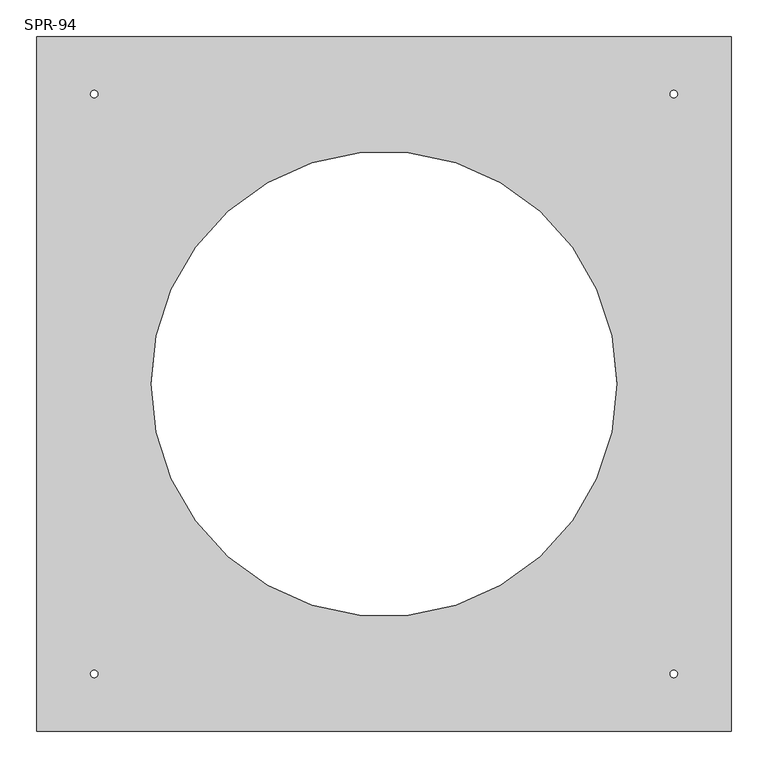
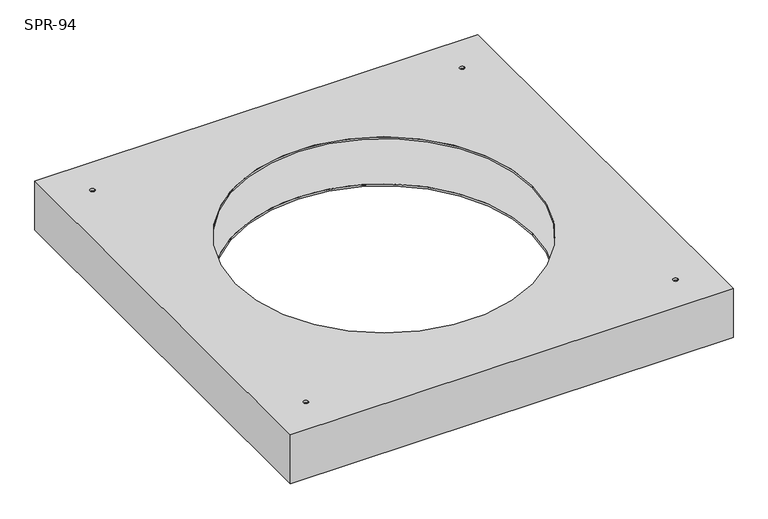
"""IFC4 building model written with IfcOpenShell, lengths in millimetres: damper geometry, СВ_КлапанИнерционный_КрышныйПрямоугольный_30-100_SPR : SPR-94."""

from ifc_helpers import new_model, si_unit, frame, origin, place, context, project, spatial, polyline, circle_curve, source, transform, mapped, element, save
from ifc_brep_helpers import plane_surface, revolved_surface, advanced_brep


def spr_94_8e47aa8c(model_context):
    return source(origin(), model_context, "Body", "AdvancedBrep", [
        advanced_brep(
        [(470.0, 470.0, 0.0), (-470.0, 470.0, 0.0), (-470.0, -470.0, 0.0), (470.0, -470.0, 0.0), (-315.0, 0.0, 0.0), (315.0, 0.0, 0.0), (-387.5, -392.5, 0.0), (-397.5, -392.5, 0.0), (397.5, -392.5, 0.0), (387.5, -392.5, 0.0), (397.5, 392.5, 0.0), (387.5, 392.5, 0.0), (-387.5, 392.5, 0.0), (-397.5, 392.5, 0.0), (470.0, 470.0, -110.0), (470.0, -470.0, -110.0), (-470.0, -470.0, -110.0), (-470.0, 470.0, -110.0), (-315.0, 0.0, -110.0), (315.0, 0.0, -110.0), (-397.5, -392.5, -110.0), (-387.5, -392.5, -110.0), (387.5, -392.5, -110.0), (397.5, -392.5, -110.0), (387.5, 392.5, -110.0), (397.5, 392.5, -110.0), (-397.5, 392.5, -110.0), (-387.5, 392.5, -110.0), (-315.0, 0.0, -4.0), (315.0, 0.0, -4.0), (315.0, 0.0, -106.0), (-315.0, 0.0, -106.0), (465.0, 465.0, -4.0), (465.0, -465.0, -4.0), (-465.0, -465.0, -4.0), (-465.0, 465.0, -4.0), (-397.5, -392.5, -4.0), (-387.5, -392.5, -4.0), (387.5, -392.5, -4.0), (397.5, -392.5, -4.0), (387.5, 392.5, -4.0), (397.5, 392.5, -4.0), (-397.5, 392.5, -4.0), (-387.5, 392.5, -4.0), (465.0, 465.0, -106.0), (-465.0, 465.0, -106.0), (-465.0, -465.0, -106.0), (465.0, -465.0, -106.0), (-387.5, -392.5, -106.0), (-397.5, -392.5, -106.0), (397.5, -392.5, -106.0), (387.5, -392.5, -106.0), (397.5, 392.5, -106.0), (387.5, 392.5, -106.0), (-387.5, 392.5, -106.0), (-397.5, 392.5, -106.0)],
        [
            (0, 1),
            (1, 2),
            (2, 3),
            (3, 0),
            (4, 5, circle_curve(frame((0.0, 0.0, 0.0), z_axis=(0.0, 0.0, -1.0), x_axis=(1.0, 0.0, 0.0)), 315.0)),
            (5, 4, circle_curve(frame((0.0, 0.0, 0.0), z_axis=(0.0, 0.0, -1.0), x_axis=(1.0, 0.0, 0.0)), 315.0)),
            (6, 7, circle_curve(frame((-392.5, -392.5, 0.0), z_axis=(0.0, 0.0, -1.0), x_axis=(1.0, 0.0, 0.0)), 5.0)),
            (7, 6, circle_curve(frame((-392.5, -392.5, 0.0), z_axis=(0.0, 0.0, -1.0), x_axis=(1.0, 0.0, 0.0)), 5.0)),
            (8, 9, circle_curve(frame((392.5, -392.5, 0.0), z_axis=(0.0, 0.0, -1.0), x_axis=(1.0, 0.0, 0.0)), 5.0)),
            (9, 8, circle_curve(frame((392.5, -392.5, 0.0), z_axis=(0.0, 0.0, -1.0), x_axis=(1.0, 0.0, 0.0)), 5.0)),
            (10, 11, circle_curve(frame((392.5, 392.5, 0.0), z_axis=(0.0, 0.0, -1.0), x_axis=(1.0, 0.0, 0.0)), 5.0)),
            (11, 10, circle_curve(frame((392.5, 392.5, 0.0), z_axis=(0.0, 0.0, -1.0), x_axis=(1.0, 0.0, 0.0)), 5.0)),
            (12, 13, circle_curve(frame((-392.5, 392.5, 0.0), z_axis=(0.0, 0.0, -1.0), x_axis=(1.0, 0.0, 0.0)), 5.0)),
            (13, 12, circle_curve(frame((-392.5, 392.5, 0.0), z_axis=(0.0, 0.0, -1.0), x_axis=(1.0, 0.0, 0.0)), 5.0)),
            (14, 15),
            (15, 16),
            (16, 17),
            (17, 14),
            (18, 19, circle_curve(frame((0.0, 0.0, -110.0), z_axis=(0.0, 0.0, 1.0), x_axis=(1.0, 0.0, 0.0)), 315.0)),
            (19, 18, circle_curve(frame((0.0, 0.0, -110.0), z_axis=(0.0, 0.0, 1.0), x_axis=(1.0, 0.0, 0.0)), 315.0)),
            (20, 21, circle_curve(frame((-392.5, -392.5, -110.0), z_axis=(0.0, 0.0, 1.0), x_axis=(1.0, 0.0, 0.0)), 5.0)),
            (21, 20, circle_curve(frame((-392.5, -392.5, -110.0), z_axis=(0.0, 0.0, 1.0), x_axis=(1.0, 0.0, 0.0)), 5.0)),
            (22, 23, circle_curve(frame((392.5, -392.5, -110.0), z_axis=(0.0, 0.0, 1.0), x_axis=(1.0, 0.0, 0.0)), 5.0)),
            (23, 22, circle_curve(frame((392.5, -392.5, -110.0), z_axis=(0.0, 0.0, 1.0), x_axis=(1.0, 0.0, 0.0)), 5.0)),
            (24, 25, circle_curve(frame((392.5, 392.5, -110.0), z_axis=(0.0, 0.0, 1.0), x_axis=(1.0, 0.0, 0.0)), 5.0)),
            (25, 24, circle_curve(frame((392.5, 392.5, -110.0), z_axis=(0.0, 0.0, 1.0), x_axis=(1.0, 0.0, 0.0)), 5.0)),
            (26, 27, circle_curve(frame((-392.5, 392.5, -110.0), z_axis=(0.0, 0.0, 1.0), x_axis=(1.0, 0.0, 0.0)), 5.0)),
            (27, 26, circle_curve(frame((-392.5, 392.5, -110.0), z_axis=(0.0, 0.0, 1.0), x_axis=(1.0, 0.0, 0.0)), 5.0)),
            (0, 14),
            (17, 1),
            (16, 2),
            (15, 3),
            (4, 28),
            (28, 29, circle_curve(frame((0.0, 0.0, -4.0), z_axis=(0.0, 0.0, -1.0), x_axis=(1.0, 0.0, 0.0)), 315.0)),
            (29, 5),
            (19, 30),
            (30, 31, circle_curve(frame((0.0, 0.0, -106.0), z_axis=(0.0, 0.0, 1.0), x_axis=(1.0, 0.0, 0.0)), 315.0)),
            (31, 18),
            (29, 28, circle_curve(frame((0.0, 0.0, -4.0), z_axis=(0.0, 0.0, -1.0), x_axis=(1.0, 0.0, 0.0)), 315.0)),
            (31, 30, circle_curve(frame((0.0, 0.0, -106.0), z_axis=(0.0, 0.0, 1.0), x_axis=(1.0, 0.0, 0.0)), 315.0)),
            (32, 33),
            (33, 34),
            (34, 35),
            (35, 32),
            (36, 37, circle_curve(frame((-392.5, -392.5, -4.0), z_axis=(0.0, 0.0, 1.0), x_axis=(1.0, 0.0, 0.0)), 5.0)),
            (37, 36, circle_curve(frame((-392.5, -392.5, -4.0), z_axis=(0.0, 0.0, 1.0), x_axis=(1.0, 0.0, 0.0)), 5.0)),
            (38, 39, circle_curve(frame((392.5, -392.5, -4.0), z_axis=(0.0, 0.0, 1.0), x_axis=(1.0, 0.0, 0.0)), 5.0)),
            (39, 38, circle_curve(frame((392.5, -392.5, -4.0), z_axis=(0.0, 0.0, 1.0), x_axis=(1.0, 0.0, 0.0)), 5.0)),
            (40, 41, circle_curve(frame((392.5, 392.5, -4.0), z_axis=(0.0, 0.0, 1.0), x_axis=(1.0, 0.0, 0.0)), 5.0)),
            (41, 40, circle_curve(frame((392.5, 392.5, -4.0), z_axis=(0.0, 0.0, 1.0), x_axis=(1.0, 0.0, 0.0)), 5.0)),
            (42, 43, circle_curve(frame((-392.5, 392.5, -4.0), z_axis=(0.0, 0.0, 1.0), x_axis=(1.0, 0.0, 0.0)), 5.0)),
            (43, 42, circle_curve(frame((-392.5, 392.5, -4.0), z_axis=(0.0, 0.0, 1.0), x_axis=(1.0, 0.0, 0.0)), 5.0)),
            (44, 45),
            (45, 46),
            (46, 47),
            (47, 44),
            (48, 49, circle_curve(frame((-392.5, -392.5, -106.0), z_axis=(0.0, 0.0, -1.0), x_axis=(1.0, 0.0, 0.0)), 5.0)),
            (49, 48, circle_curve(frame((-392.5, -392.5, -106.0), z_axis=(0.0, 0.0, -1.0), x_axis=(1.0, 0.0, 0.0)), 5.0)),
            (50, 51, circle_curve(frame((392.5, -392.5, -106.0), z_axis=(0.0, 0.0, -1.0), x_axis=(1.0, 0.0, 0.0)), 5.0)),
            (51, 50, circle_curve(frame((392.5, -392.5, -106.0), z_axis=(0.0, 0.0, -1.0), x_axis=(1.0, 0.0, 0.0)), 5.0)),
            (52, 53, circle_curve(frame((392.5, 392.5, -106.0), z_axis=(0.0, 0.0, -1.0), x_axis=(1.0, 0.0, 0.0)), 5.0)),
            (53, 52, circle_curve(frame((392.5, 392.5, -106.0), z_axis=(0.0, 0.0, -1.0), x_axis=(1.0, 0.0, 0.0)), 5.0)),
            (54, 55, circle_curve(frame((-392.5, 392.5, -106.0), z_axis=(0.0, 0.0, -1.0), x_axis=(1.0, 0.0, 0.0)), 5.0)),
            (55, 54, circle_curve(frame((-392.5, 392.5, -106.0), z_axis=(0.0, 0.0, -1.0), x_axis=(1.0, 0.0, 0.0)), 5.0)),
            (35, 45),
            (44, 32),
            (34, 46),
            (33, 47),
            (36, 7),
            (6, 37),
            (20, 49),
            (48, 21),
            (38, 9),
            (8, 39),
            (22, 51),
            (50, 23),
            (40, 11),
            (10, 41),
            (24, 53),
            (52, 25),
            (42, 13),
            (12, 43),
            (26, 55),
            (54, 27),
        ],
        [
            plane_surface(frame((-470.0, 470.0, 0.0), z_axis=(0.0, 0.0, 1.0), x_axis=(-1.0, 0.0, 0.0))),
            plane_surface(frame((-470.0, 470.0, -110.0), z_axis=(0.0, 0.0, -1.0), x_axis=(1.0, 0.0, 0.0))),
            plane_surface(frame((470.0, 470.0, 0.0), z_axis=(0.0, 1.0, 0.0), x_axis=(0.0, 0.0, -1.0))),
            plane_surface(frame((-470.0, 470.0, 0.0), z_axis=(-1.0, 0.0, 0.0), x_axis=(0.0, 0.0, -1.0))),
            plane_surface(frame((-470.0, -470.0, 0.0), z_axis=(0.0, -1.0, 0.0), x_axis=(0.0, 0.0, -1.0))),
            plane_surface(frame((470.0, -470.0, 0.0), z_axis=(1.0, 0.0, 0.0), x_axis=(0.0, 0.0, -1.0))),
            revolved_surface(polyline([(315.0, 0.0, -4.0), (315.0, 0.0, 0.0)]), (0.0, 0.0, 0.0), (0.0, 0.0, -1.0)),
            revolved_surface(polyline([(315.0, 0.0, -110.0), (315.0, 0.0, -106.0)]), (0.0, 0.0, 0.0), (0.0, 0.0, -1.0)),
            plane_surface(frame((-465.0, 465.0, -4.0), z_axis=(0.0, 0.0, -1.0), x_axis=(-1.0, 0.0, 0.0))),
            plane_surface(frame((-465.0, 465.0, -106.0), z_axis=(0.0, 0.0, 1.0), x_axis=(1.0, 0.0, 0.0))),
            plane_surface(frame((465.0, 465.0, -4.0), z_axis=(0.0, -1.0, 0.0), x_axis=(0.0, 0.0, -1.0))),
            plane_surface(frame((-465.0, 465.0, -4.0), z_axis=(1.0, 0.0, 0.0), x_axis=(0.0, 0.0, -1.0))),
            plane_surface(frame((-465.0, -465.0, -4.0), z_axis=(0.0, 1.0, 0.0), x_axis=(0.0, 0.0, -1.0))),
            plane_surface(frame((465.0, -465.0, -4.0), z_axis=(-1.0, 0.0, 0.0), x_axis=(0.0, 0.0, -1.0))),
            revolved_surface(polyline([(-387.5, -392.5, 0.0), (-387.5, -392.5, -4.0)]), (-392.5, -392.5, -110.0), (0.0, 0.0, 1.0)),
            revolved_surface(polyline([(-387.5, -392.5, -106.0), (-387.5, -392.5, -110.0)]), (-392.5, -392.5, -110.0), (0.0, 0.0, 1.0)),
            revolved_surface(polyline([(397.5, -392.5, 0.0), (397.5, -392.5, -4.0)]), (392.5, -392.5, 0.0), (0.0, 0.0, 1.0)),
            revolved_surface(polyline([(397.5, -392.5, -106.0), (397.5, -392.5, -110.0)]), (392.5, -392.5, 0.0), (0.0, 0.0, 1.0)),
            revolved_surface(polyline([(397.5, 392.5, 0.0), (397.5, 392.5, -4.0)]), (392.5, 392.5, 0.0), (0.0, 0.0, 1.0)),
            revolved_surface(polyline([(397.5, 392.5, -106.0), (397.5, 392.5, -110.0)]), (392.5, 392.5, 0.0), (0.0, 0.0, 1.0)),
            revolved_surface(polyline([(-387.5, 392.5, 0.0), (-387.5, 392.5, -4.0)]), (-392.5, 392.5, 0.0), (0.0, 0.0, 1.0)),
            revolved_surface(polyline([(-387.5, 392.5, -106.0), (-387.5, 392.5, -110.0)]), (-392.5, 392.5, 0.0), (0.0, 0.0, 1.0)),
        ],
        [
            (0, [[1, 2, 3, 4], [5, 6], [7, 8], [9, 10], [11, 12], [13, 14]]),
            (1, [[15, 16, 17, 18], [19, 20], [21, 22], [23, 24], [25, 26], [27, 28]]),
            (2, [[-1, 29, -18, 30]]),
            (3, [[-2, -30, -17, 31]]),
            (4, [[-3, -31, -16, 32]]),
            (5, [[-4, -32, -15, -29]]),
            (6, [[-5, 33, 34, 35]]),
            (7, [[-20, 36, 37, 38]]),
            (6, [[-6, -35, 39, -33]]),
            (7, [[-19, -38, 40, -36]]),
            (8, [[41, 42, 43, 44], [-34, -39], [45, 46], [47, 48], [49, 50], [51, 52]]),
            (9, [[53, 54, 55, 56], [-37, -40], [57, 58], [59, 60], [61, 62], [63, 64]]),
            (10, [[-44, 65, -53, 66]]),
            (11, [[-43, 67, -54, -65]]),
            (12, [[-42, 68, -55, -67]]),
            (13, [[-41, -66, -56, -68]]),
            (14, [[69, -7, 70, -45]]),
            (15, [[71, -57, 72, -21]]),
            (14, [[-69, -46, -70, -8]]),
            (15, [[-71, -22, -72, -58]]),
            (16, [[73, -9, 74, -47]]),
            (17, [[75, -59, 76, -23]]),
            (16, [[-73, -48, -74, -10]]),
            (17, [[-75, -24, -76, -60]]),
            (18, [[77, -11, 78, -49]]),
            (19, [[79, -61, 80, -25]]),
            (18, [[-77, -50, -78, -12]]),
            (19, [[-79, -26, -80, -62]]),
            (20, [[81, -13, 82, -51]]),
            (21, [[83, -63, 84, -27]]),
            (20, [[-81, -52, -82, -14]]),
            (21, [[-83, -28, -84, -64]]),
        ],
    ),
    ])


if __name__ == "__main__":
    model = new_model("IFC4")
    model_context = context("Model", 3, world=origin())
    ifc_project = project(units=[si_unit("LENGTHUNIT", "METRE", prefix="MILLI")], contexts=[model_context])
    site = spatial("IfcSite", under=ifc_project)
    building = spatial("IfcBuilding", under=site)
    placement = place(None, origin())
    spr_94_shape = spr_94_8e47aa8c(model_context)
    element("IfcDamper", 1, ObjectType="СВ_КлапанИнерционный_КрышныйПрямоугольный_30-100_SPR : SPR-94", at=placement, inside=building, context=model_context, shape_type="MappedRepresentation", body=[
        mapped(spr_94_shape, transform((0.0, 0.0, 0.0), x_axis=(1.0, 0.0, 0.0), y_axis=(0.0, 1.0, 0.0), z_axis=(0.0, 0.0, 1.0))),
    ])
    save(model, "model.ifc")
